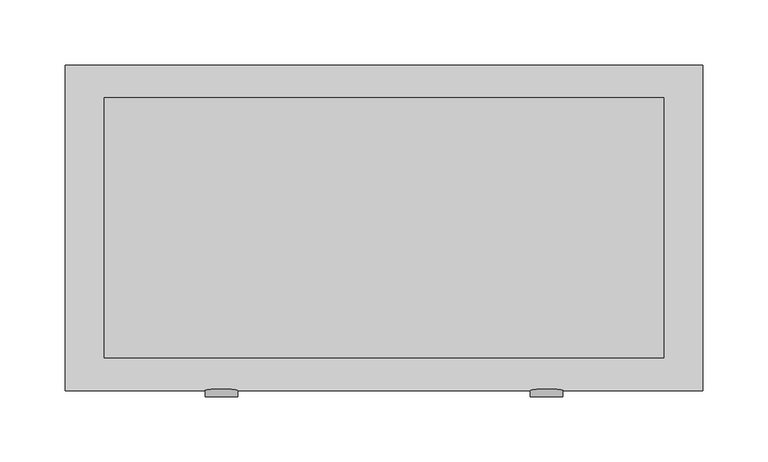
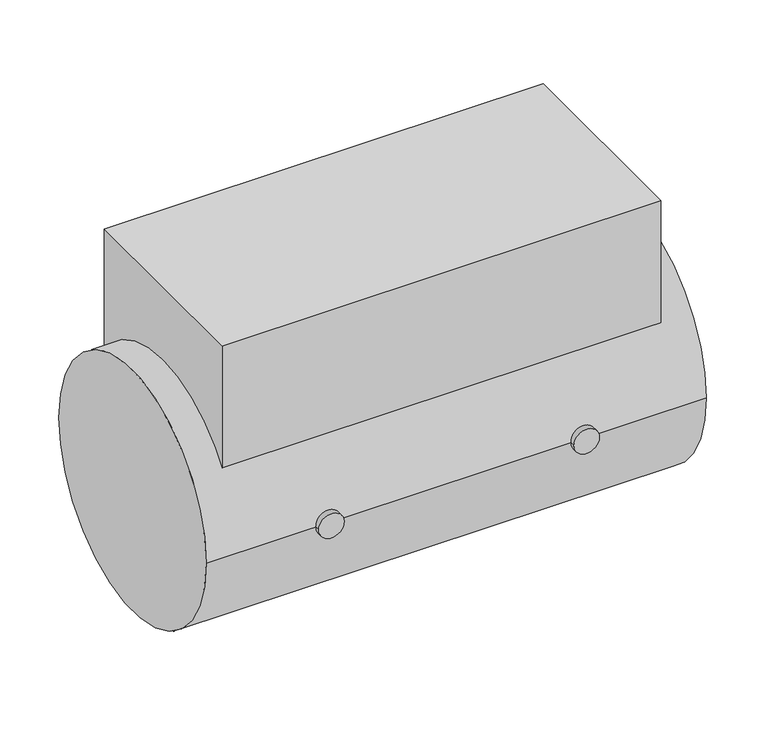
"""IFC4 building model written with IfcOpenShell, lengths in millimetres: proxy geometry, APMV_Нагреватель круглый : APMV_Нагреватель."""

from ifc_helpers import new_model, si_unit, point, frame, frame_2d, origin, origin_with_axes, place, context, project, spatial, polyline, circle_curve, trimmed, segment, composite_curve, outline, extrude, source, transform, mapped, element, save


def mechanical_equipment_5bb9265b(model_context):
    return source(origin(), model_context, "Body", "SweptSolid", [
        extrude(outline(composite_curve([segment(trimmed(circle_curve(frame_2d((0.0, 27.5)), 12.5), [point((0.0, 15.0))], [point((0.0, 40.0))], False, "CARTESIAN"), True, "CONTINUOUS"), segment(trimmed(circle_curve(frame_2d((0.0, 27.5)), 12.5), [point((0.0, 40.0))], [point((0.0, 15.0))], False, "CARTESIAN"), True, "CONTINUOUS")], self_intersect=False)), frame((0.0, -122.2095072, 0.0), z_axis=(0.0, 1.0, 0.0), x_axis=(0.0, 0.0, 1.0)), (0.0, 0.0, 1.0), 29.7095072),
        extrude(outline(composite_curve([segment(trimmed(circle_curve(frame_2d((0.0, 277.5)), 12.5), [point((0.0, 290.0))], [point((0.0, 265.0))], False, "CARTESIAN"), True, "CONTINUOUS"), segment(trimmed(circle_curve(frame_2d((0.0, 277.5)), 12.5), [point((0.0, 265.0))], [point((0.0, 290.0))], False, "CARTESIAN"), True, "CONTINUOUS")], self_intersect=False)), frame((0.0, -122.2095072, 0.0), z_axis=(0.0, 1.0, 0.0), x_axis=(0.0, 0.0, 1.0)), (0.0, 0.0, 1.0), 29.7095072),
        extrude(outline(polyline([(367.5, 107.5), (367.5, -92.5), (-62.5, -92.5), (-62.5, 107.5), (367.5, 107.5)])), origin_with_axes(), (0.0, 0.0, 1.0), 200.0),
        extrude(outline(composite_curve([segment(trimmed(circle_curve(frame_2d((7.5, 0.0)), 125.0), [point((-117.5, 0.0))], [point((132.5, 0.0))], False, "CARTESIAN"), True, "CONTINUOUS"), segment(trimmed(circle_curve(frame_2d((7.5, 0.0)), 125.0), [point((132.5, 0.0))], [point((-117.5, 0.0))], False, "CARTESIAN"), True, "CONTINUOUS")], self_intersect=False)), frame((-92.5, 0.0, 0.0), z_axis=(1.0, 0.0, 0.0), x_axis=(0.0, 1.0, 0.0)), (0.0, 0.0, 1.0), 490.0),
    ])


if __name__ == "__main__":
    model = new_model("IFC4")
    model_context = context("Model", 3, world=origin())
    ifc_project = project(units=[si_unit("LENGTHUNIT", "METRE", prefix="MILLI")], contexts=[model_context])
    site = spatial("IfcSite", under=ifc_project)
    building = spatial("IfcBuilding", under=site)
    placement = place(None, origin())
    mechanical_equipment_shape = mechanical_equipment_5bb9265b(model_context)
    element("IfcBuildingElementProxy", 1, Name="APMV_Нагреватель круглый : APMV_Нагреватель", ObjectType="APMV_Нагреватель круглый : APMV_Нагреватель", at=placement, inside=building, context=model_context, shape_type="MappedRepresentation", body=[
        mapped(mechanical_equipment_shape, transform((0.0, 0.0, 0.0), x_axis=(1.0, 0.0, 0.0), y_axis=(0.0, 1.0, 0.0), z_axis=(0.0, 0.0, 1.0))),
    ])
    save(model, "model.ifc")
